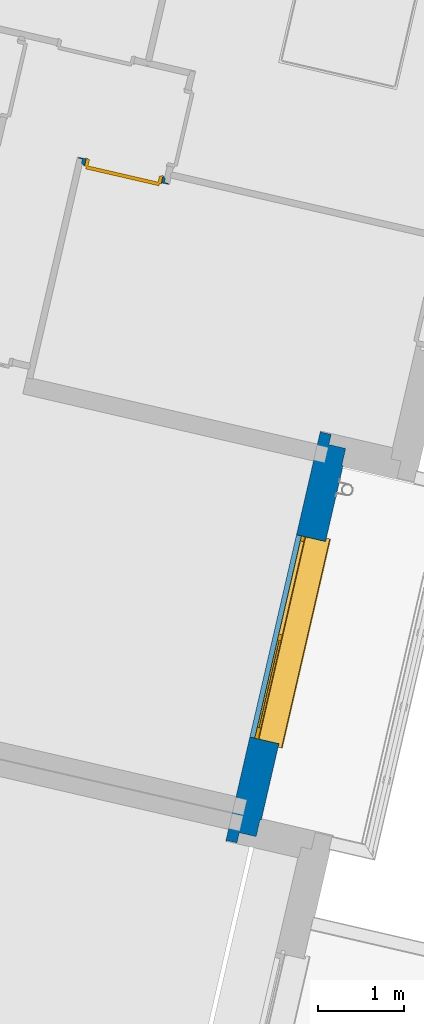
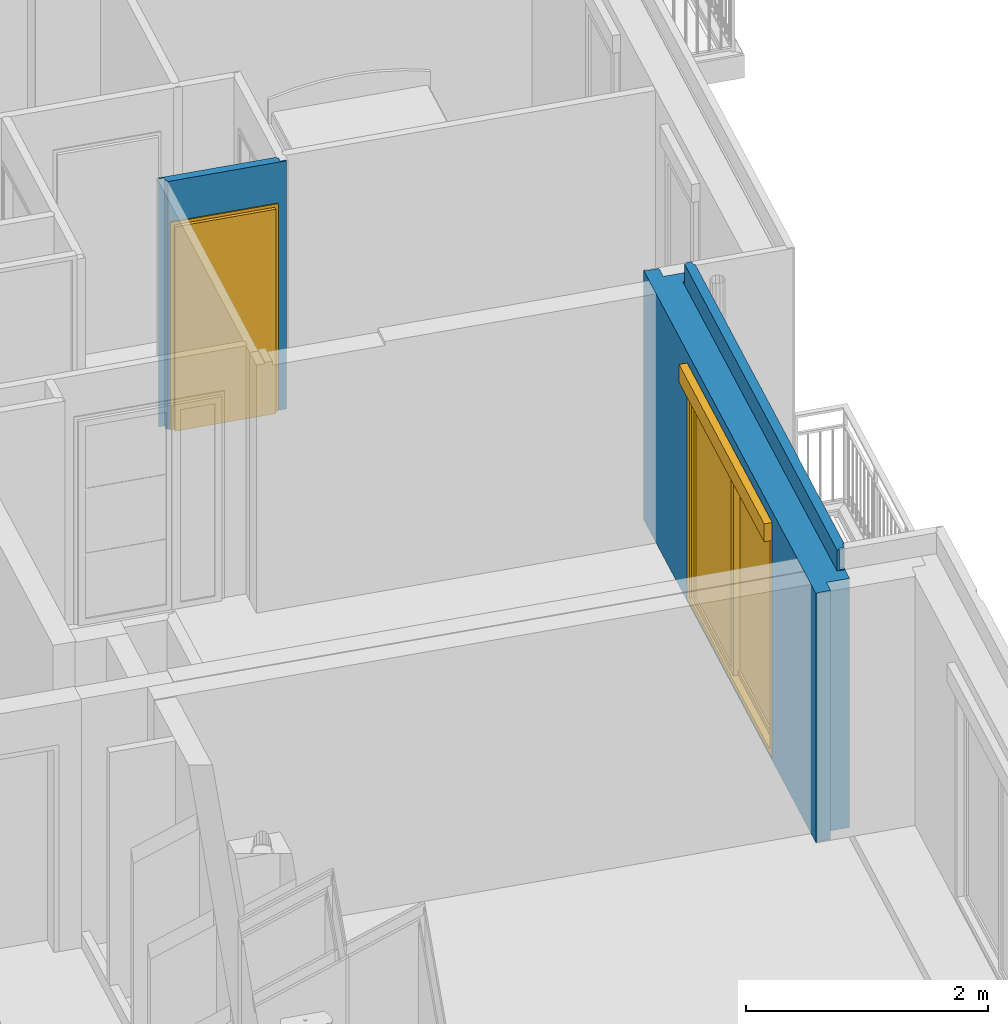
# One storey, part 32 of 90: 2 walls, 1 door, 1 window, 2 openings.
"""IFC2X3 building model written with IfcOpenShell, lengths in metres."""

import ifcopenshell
import ifcopenshell.guid

model = None  # the IFC model being written
_history = None  # IfcOwnerHistory: only IFC2X3 demands one
_inside = {}  # id of a spatial element -> (the spatial element, [elements in it])
_under = {}  # id of a project, library or spatial element -> (it, [spatial elements below it])
_declared = {}  # id of a project -> (the project, [libraries it declares])
_typed = {}  # id of a type object -> (the type object, [elements of that type])
_made_of = {}  # id of a material, layer set ... -> (it, [elements and type objects made of it])


def new_model(schema):
    """Start an empty IFC model of exactly this schema.

    Asked for "IFC4X3", IfcOpenShell would pick the latest addendum, in which some entities
    have other attributes; the version numbers below select the first issue.
    IFC2X3 requires an IfcOwnerHistory on every rooted entity: one is made here for all.
    """
    global model, _history
    if schema == "IFC4X3":
        model = ifcopenshell.file(schema_version=(4, 3, 0, 0))
    else:
        model = ifcopenshell.file(schema=schema)
    _inside.clear()
    _under.clear()
    _declared.clear()
    _typed.clear()
    _made_of.clear()
    _history = None
    if model.schema == "IFC2X3":
        org = make("IfcOrganization", Name="unknown")
        user = make(
            "IfcPersonAndOrganization",
            ThePerson=make("IfcPerson", FamilyName="unknown"),
            TheOrganization=org,
        )
        app = make(
            "IfcApplication",
            ApplicationDeveloper=org,
            Version="unknown",
            ApplicationFullName="unknown",
            ApplicationIdentifier="unknown",
        )
        _history = make(
            "IfcOwnerHistory",
            OwningUser=user,
            OwningApplication=app,
            ChangeAction="ADDED",
            CreationDate=0,
        )
    return model


def make(cls, **values):
    """One entity of the class cls with the attributes given. An attribute that is None is left unset."""
    return model.create_entity(
        cls, **{name: value for name, value in values.items() if value is not None}
    )


def entity(cls, *values):
    """Any entity or typed value of the class cls, its attributes in the order of the schema. None: left unset."""
    e = model.create_entity(cls)
    for i, value in enumerate(values):
        if value is not None:
            e[i] = value
    return e


def rooted(cls, **values):
    """An entity with a GlobalId (a new one), such as an element, a storey or a relation."""
    return make(cls, GlobalId=ifcopenshell.guid.new(), OwnerHistory=_history, **values)


def si_unit(unit_type, name, prefix=None):
    """IfcSIUnit, for example si_unit("LENGTHUNIT", "METRE", prefix="MILLI")."""
    return make("IfcSIUnit", UnitType=unit_type, Prefix=prefix, Name=name)


def converted_unit(unit_type, name, factor, base, dimensions=None, offset=None):
    """IfcConversionBasedUnit, such as the inch: factor (a typed value) times the base unit."""
    return make(
        "IfcConversionBasedUnit"
        if offset is None
        else "IfcConversionBasedUnitWithOffset",
        ConversionOffset=offset,
        Dimensions=None
        if dimensions is None
        else entity("IfcDimensionalExponents", *dimensions),
        UnitType=unit_type,
        Name=name,
        ConversionFactor=make(
            "IfcMeasureWithUnit", ValueComponent=factor, UnitComponent=base
        ),
    )


def derived_unit(unit_type, elements):
    """IfcDerivedUnit: a product of units, each with its exponent."""
    return make(
        "IfcDerivedUnit",
        Elements=[
            make("IfcDerivedUnitElement", Unit=unit, Exponent=power)
            for unit, power in elements
        ],
        UnitType=unit_type,
    )


def money_unit(currency):
    """IfcMonetaryUnit."""
    return make("IfcMonetaryUnit", Currency=currency)


def assignment(units):
    """IfcUnitAssignment: the units of a project."""
    return None if units is None else make("IfcUnitAssignment", Units=units)


def point(xyz):
    """IfcCartesianPoint."""
    return None if xyz is None else make("IfcCartesianPoint", Coordinates=xyz)


def direction(xyz):
    """IfcDirection."""
    return None if xyz is None else make("IfcDirection", DirectionRatios=xyz)


def frame(location, z_axis=None, x_axis=None):
    """IfcAxis2Placement3D, a coordinate frame: its origin and axes. An axis left out is left unset."""
    return make(
        "IfcAxis2Placement3D",
        Location=point(location),
        Axis=direction(z_axis),
        RefDirection=direction(x_axis),
    )


def origin_with_axes():
    """The frame at (0, 0, 0) with the z axis (0, 0, 1) and the x axis (1, 0, 0) written out."""
    return frame((0.0, 0.0, 0.0), z_axis=(0.0, 0.0, 1.0), x_axis=(1.0, 0.0, 0.0))


def place(relative_to, where):
    """IfcLocalPlacement: puts the frame where relative to a parent placement (None: the world)."""
    return make(
        "IfcLocalPlacement", PlacementRelTo=relative_to, RelativePlacement=where
    )


def context(
    kind, dimensions, precision=None, world=None, true_north=None, identifier=None
):
    """IfcGeometricRepresentationContext, for example the 3D "Model" context."""
    return make(
        "IfcGeometricRepresentationContext",
        ContextIdentifier=identifier,
        ContextType=kind,
        CoordinateSpaceDimension=dimensions,
        Precision=precision,
        WorldCoordinateSystem=world,
        TrueNorth=true_north,
    )


def subcontext(parent, identifier, kind, view, scale=None):
    """IfcGeometricRepresentationSubContext, for example "Body" below "Model"."""
    return make(
        "IfcGeometricRepresentationSubContext",
        ContextIdentifier=identifier,
        ContextType=kind,
        ParentContext=parent,
        TargetScale=scale,
        TargetView=view,
    )


def project(units=None, contexts=None):
    """IfcProject with its units and contexts."""
    return rooted(
        "IfcProject",
        Name="project",
        RepresentationContexts=contexts,
        UnitsInContext=assignment(units),
    )


def spatial(cls, under=None, at=None, **own):
    """A site, building, storey or space (cls), placed at a placement, below another one or the project."""
    s = rooted(cls, ObjectPlacement=at, **own)
    if under is not None:
        _under.setdefault(under.id(), (under, []))[1].append(s)
    return s


def faces_of(points, faces, orient=None, outer=None):
    """IfcFace entities. A face is a list of loops; a loop is a list of indices into points, from 0.

    orient and outer hold one flag for each loop. By default every Orientation is true, the
    first loop of a face is its IfcFaceOuterBound and the others are IfcFaceBound.
    """
    made = []
    for i, loops in enumerate(faces):
        bounds = []
        for j, loop in enumerate(loops):
            is_outer = j == 0 if outer is None else outer[i][j]
            bounds.append(
                make(
                    "IfcFaceOuterBound" if is_outer else "IfcFaceBound",
                    Bound=make("IfcPolyLoop", Polygon=[points[k] for k in loop]),
                    Orientation=True if orient is None else orient[i][j],
                )
            )
        made.append(make("IfcFace", Bounds=bounds))
    return made


def open_shell(faces, orient=None, outer=None):
    """The faces of one IfcOpenShell. surface_model builds it on its shared points."""
    return ("IfcOpenShell", faces, orient, outer)


def faceted_brep(points, faces, orient=None, outer=None, voids=None):
    """IfcFacetedBrep: a solid bounded by flat faces; with voids (closed shells), ...WithVoids."""
    shared = [point(p) for p in points]
    hull = make("IfcClosedShell", CfsFaces=faces_of(shared, faces, orient, outer))
    if voids is None:
        return make("IfcFacetedBrep", Outer=hull)
    return make(
        "IfcFacetedBrepWithVoids",
        Outer=hull,
        Voids=[
            make(cls, CfsFaces=faces_of(shared, fs, o, b)) for cls, fs, o, b in voids
        ],
    )


def surface_model(cls, points, shells):
    """IfcFaceBasedSurfaceModel or IfcShellBasedSurfaceModel (cls): surfaces that need not close."""
    shared = [point(p) for p in points]
    made = [make(c, CfsFaces=faces_of(shared, fs, o, b)) for c, fs, o, b in shells]
    if cls == "IfcFaceBasedSurfaceModel":
        return make(cls, FbsmFaces=made)
    return make(cls, SbsmBoundary=made)


def shape(context_of_items, identifier, shape_type, items):
    """IfcShapeRepresentation: the items that make up one representation, for example the "Body"."""
    return make(
        "IfcShapeRepresentation",
        ContextOfItems=context_of_items,
        RepresentationIdentifier=identifier,
        RepresentationType=shape_type,
        Items=items,
    )


def source(mapping_origin, context_of_items, identifier, shape_type, items):
    """IfcRepresentationMap: a shape defined once, which mapped items show again and again."""
    return make(
        "IfcRepresentationMap",
        MappingOrigin=mapping_origin,
        MappedRepresentation=shape(context_of_items, identifier, shape_type, items),
    )


def transform(
    local_origin,
    x_axis=None,
    y_axis=None,
    z_axis=None,
    scale=None,
    scale2=None,
    scale3=None,
    uniform=True,
):
    """IfcCartesianTransformationOperator3D, or its non-uniform kind. x_axis, y_axis, z_axis: its Axis1, 2, 3."""
    if uniform:
        return make(
            "IfcCartesianTransformationOperator3D",
            Axis1=direction(x_axis),
            Axis2=direction(y_axis),
            LocalOrigin=point(local_origin),
            Scale=scale,
            Axis3=direction(z_axis),
        )
    return make(
        "IfcCartesianTransformationOperator3DnonUniform",
        Axis1=direction(x_axis),
        Axis2=direction(y_axis),
        LocalOrigin=point(local_origin),
        Scale=scale,
        Axis3=direction(z_axis),
        Scale2=scale2,
        Scale3=scale3,
    )


def mapped(mapping_source, mapping_target):
    """IfcMappedItem: shows the shape of a source again, moved by a transform."""
    return make(
        "IfcMappedItem", MappingSource=mapping_source, MappingTarget=mapping_target
    )


def material(Name=None, Category=None):
    """IfcMaterial."""
    return make("IfcMaterial", Name=Name, Category=Category)


def material_list(materials):
    """IfcMaterialList."""
    return make("IfcMaterialList", Materials=materials)


def made_of(thing, what):
    """Note that an element or type object is made of a material, layer set ...; save() writes the relation."""
    if what is not None:
        _made_of.setdefault(what.id(), (what, []))[1].append(thing)
    return thing


def type_object(cls, material=None, **own):
    """A type object (cls), such as IfcWallType, which elements share."""
    return made_of(rooted(cls, **own), material)


def element(
    cls,
    number,
    at=None,
    inside=None,
    cuts=None,
    type_object=None,
    material=None,
    context=None,
    identifier="Body",
    shape_type=None,
    held_by="IfcProductDefinitionShape",
    body=None,
    shapes=None,
    **own,
):
    """One element of the class cls, such as IfcWall. Its Tag is "e" and its number.

    at: its placement. inside: the storey or other place that contains it. cuts: it is an
    opening in that element (IfcRelVoidsElement). A single representation is given by context,
    identifier, shape_type and body (its items); several are given by shapes. held_by: the class
    of the entity that holds the representations. save() writes the other relations.
    """
    e = rooted(cls, Tag="e%d" % number, ObjectPlacement=at, **own)
    if body is not None:
        shapes = [shape(context, identifier, shape_type, body)]
    if shapes is not None:
        e.Representation = make(held_by, Representations=shapes)
    if inside is not None:
        _inside.setdefault(inside.id(), (inside, []))[1].append(e)
    if cuts is not None:
        rooted(
            "IfcRelVoidsElement", RelatingBuildingElement=cuts, RelatedOpeningElement=e
        )
    if type_object is not None:
        _typed.setdefault(type_object.id(), (type_object, []))[1].append(e)
    return made_of(e, material)


def fill(opening, filler):
    """IfcRelFillsElement: the door or window that sits in an opening."""
    return rooted(
        "IfcRelFillsElement",
        RelatingOpeningElement=opening,
        RelatedBuildingElement=filler,
    )


def aggregate(whole, parts):
    """IfcRelAggregates: a whole, such as a stair, and the parts it consists of."""
    return rooted("IfcRelAggregates", RelatingObject=whole, RelatedObjects=parts)


def save(model, path):
    """Write the relations noted so far, then the file.

    IfcRelAggregates (storeys below a building ...), IfcRelContainedInSpatialStructure (elements
    in a storey), IfcRelDefinesByType, IfcRelAssociatesMaterial and IfcRelDeclares: one each for
    every whole, place, type object, material and project.
    """
    for whole, parts in _under.values():
        aggregate(whole, parts)
    for where, things in _inside.values():
        rooted(
            "IfcRelContainedInSpatialStructure",
            RelatedElements=things,
            RelatingStructure=where,
        )
    for kind, things in _typed.values():
        rooted("IfcRelDefinesByType", RelatedObjects=things, RelatingType=kind)
    for what, things in _made_of.values():
        rooted("IfcRelAssociatesMaterial", RelatedObjects=things, RelatingMaterial=what)
    for by, libraries in _declared.values():
        rooted("IfcRelDeclares", RelatingContext=by, RelatedDefinitions=libraries)
    model.write(path)


model = new_model("IFC2X3")

# Units and contexts
model_context = context("Model", 3, precision=1e-05, world=origin_with_axes(), true_north=direction((0.0, 1.0)))
body_context = subcontext(model_context, "Body", "Model", "MODEL_VIEW")
ifc_project = project(units=[si_unit("LENGTHUNIT", "METRE"), si_unit("AREAUNIT", "SQUARE_METRE"), si_unit("VOLUMEUNIT", "CUBIC_METRE"), converted_unit("PLANEANGLEUNIT", "DEGREE", entity("IfcPlaneAngleMeasure", 0.0174532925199), si_unit("PLANEANGLEUNIT", "RADIAN"), dimensions=[0, 0, 0, 0, 0, 0, 0]), si_unit("SOLIDANGLEUNIT", "STERADIAN"), money_unit("EUR"), converted_unit("TIMEUNIT", "Year", entity("IfcTimeMeasure", 31556926.0), si_unit("TIMEUNIT", "SECOND"), dimensions=[0, 0, 1, 0, 0, 0, 0]), si_unit("MASSUNIT", "GRAM", prefix="KILO"), si_unit("THERMODYNAMICTEMPERATUREUNIT", "DEGREE_CELSIUS"), si_unit("LUMINOUSINTENSITYUNIT", "LUMEN"), si_unit("ENERGYUNIT", "JOULE", prefix="MEGA"), derived_unit("THERMALCONDUCTANCEUNIT", [(si_unit("POWERUNIT", "WATT"), 1), (si_unit("LENGTHUNIT", "METRE"), -1), (si_unit("THERMODYNAMICTEMPERATUREUNIT", "KELVIN"), -1)]), derived_unit("SPECIFICHEATCAPACITYUNIT", [(si_unit("ENERGYUNIT", "JOULE"), 1), (si_unit("MASSUNIT", "GRAM", prefix="KILO"), -1), (si_unit("THERMODYNAMICTEMPERATUREUNIT", "KELVIN"), -1)]), derived_unit("MASSDENSITYUNIT", [(si_unit("MASSUNIT", "GRAM", prefix="KILO"), 1), (si_unit("VOLUMEUNIT", "CUBIC_METRE"), -1)])], contexts=[model_context])

# Site, building, storey
site_placement = place(None, origin_with_axes())
site = spatial("IfcSite", under=ifc_project, at=site_placement, Name="Site", CompositionType="ELEMENT")
building_placement = place(site_placement, origin_with_axes())
building = spatial("IfcBuilding", under=site, at=building_placement, Name="Bâtiment", CompositionType="ELEMENT")
storey_placement = place(building_placement, frame((0.0, 0.0, 2.72), z_axis=(0.0, 0.0, 1.0), x_axis=(1.0, 0.0, 0.0)))
storey = spatial("IfcBuildingStorey", under=building, at=storey_placement, Name="R+1", CompositionType="ELEMENT", Elevation=2.72)

# Wall, opening, window
ifc_material_1 = material(Name="Finition ext - Crépis")
ifc_material_2 = material(Name="Béton cellulaire")
ifc_material_3 = material(Name="Mortier")
ifc_material_4 = material(Name="Isolation - Polystyrène expansé")
ifc_material_5 = material(Name="Bloc ELITHERM")
ifc_material_6 = material(Name="Isolation - Polystyrène extrudé")
ifc_material_7 = material(Name="Finition int - Plaque de plâtre")
ifc_material_list_1 = material_list([ifc_material_1, ifc_material_2, ifc_material_3, ifc_material_4, ifc_material_5, ifc_material_6, ifc_material_7])
wall_type_1 = type_object("IfcWallType", Name="Mur ALKERN + planelle 21 345 x 2720", PredefinedType="USERDEFINED")
wall_1_placement = place(storey_placement, frame((-1.10089203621, 6.64769459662, 0.0), z_axis=(0.0, 0.0, 1.0), x_axis=(-0.224876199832, -0.974387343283, 0.0)))
wall_1 = element("IfcWall", 1, at=wall_1_placement, inside=storey, type_object=wall_type_1, material=ifc_material_list_1, Name="Mue bloc ALKERN isolé", ObjectType="SOLIDWALL", context=body_context, shape_type="Brep", body=[
    faceted_brep([(0.885499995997, -0.015, 0.02), (0.885499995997, -0.015, 0.0), (-0.0150000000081, -0.015, 0.0), (-0.0150000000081, -0.015, 2.72), (4.19099999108, -0.015, 2.72), (4.19099999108, -0.015, 0.0), (3.285499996, -0.015, 0.0), (3.285499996, -0.015, 0.02), (3.285499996, -0.015, 2.22), (0.885499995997, -0.015, 2.22), (0.885499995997, -0.0299999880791, 0.02), (0.885499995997, -0.0299999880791, 0.0), (0.885499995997, -0.0299999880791, 2.22), (-0.0150000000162, -0.0299999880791, 0.0), (-0.0150000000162, -0.0299999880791, 2.72), (4.19099999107, -0.0299999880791, 2.72), (4.19099999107, -0.0299999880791, 0.0), (3.285499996, -0.0299999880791, 0.0), (3.285499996, -0.0299999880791, 0.02), (3.285499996, -0.0299999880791, 2.22)], [[[0, 1, 2, 3, 4, 5, 6, 7, 8, 9]], [[10, 11, 1, 0, 9, 12]], [[1, 11, 13, 2]], [[3, 2, 13, 14]], [[4, 3, 14, 15]], [[15, 16, 5, 4]], [[17, 6, 5, 16]], [[7, 6, 17, 18, 19, 8]], [[8, 19, 12, 9]], [[11, 10, 12, 19, 18, 17, 16, 15, 14, 13]]]),
    faceted_brep([(4.23899999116, -0.0779999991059, 2.72), (4.23899999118, -0.03, 2.72), (-0.0630000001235, -0.03, 2.72), (-0.0630000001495, -0.0779999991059, 2.72), (4.23899999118, -0.03, 2.51999999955), (4.23899999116, -0.0779999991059, 2.51999999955), (-0.0630000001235, -0.03, 2.51999999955), (-0.0630000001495, -0.0779999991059, 2.51999999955)], [[[0, 1, 2, 3]], [[4, 1, 0, 5]], [[1, 4, 6, 2]], [[3, 2, 6, 7]], [[5, 0, 3, 7]], [[4, 5, 7, 6]]]),
    faceted_brep([(4.25899998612, -0.098, 2.51999998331), (4.25899998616, -0.03, 2.51999998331), (-0.0830000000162, -0.03, 2.51999998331), (-0.083000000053, -0.098, 2.51999998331), (4.25899998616, -0.03, 2.51000000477), (4.25899998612, -0.098, 2.51000000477), (-0.0830000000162, -0.03, 2.51000000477), (-0.083000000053, -0.098, 2.51000000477)], [[[0, 1, 2, 3]], [[4, 1, 0, 5]], [[1, 4, 6, 2]], [[2, 6, 7, 3]], [[5, 0, 3, 7]], [[4, 5, 7, 6]]]),
    faceted_brep([(-0.048000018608, -0.0780000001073, 2.51999998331), (-0.0480000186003, -0.0780000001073, 2.72), (4.25899998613, -0.0780000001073, 2.72), (4.25899998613, -0.0780000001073, 2.51999998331), (-0.0480000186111, -0.0980000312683, 2.72), (-0.0480000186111, -0.098000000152, 2.51999998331), (4.25899998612, -0.098000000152, 2.72), (4.25899998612, -0.098000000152, 2.51999998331)], [[[0, 1, 2, 3]], [[4, 1, 0, 5]], [[1, 4, 6, 2]], [[7, 3, 2, 6]], [[5, 0, 3, 7]], [[4, 5, 7, 6]]]),
    faceted_brep([(0.885499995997, -0.03, 0.02), (0.885499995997, -0.03, 0.0), (-0.215000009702, -0.03, 0.0), (-0.215000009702, -0.03, 2.51), (4.39100000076, -0.03, 2.51), (4.39100000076, -0.03, 0.0), (3.285499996, -0.03, 0.0), (3.285499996, -0.03, 0.02), (3.285499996, -0.03, 2.22), (0.885499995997, -0.03, 2.22), (0.885499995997, -0.229999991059, 0.02), (0.885499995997, -0.229999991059, 0.0), (0.885499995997, -0.229999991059, 2.22), (-0.21500000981, -0.229999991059, 0.0), (-0.21500000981, -0.229999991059, 2.51), (-0.215000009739, -0.0979999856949, 2.51), (4.39100000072, -0.0979999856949, 2.51), (4.39100000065, -0.229999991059, 0.0), (4.39100000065, -0.229999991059, 2.51), (3.285499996, -0.229999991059, 0.0), (3.285499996, -0.229999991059, 0.02), (3.285499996, -0.229999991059, 2.22)], [[[0, 1, 2, 3, 4, 5, 6, 7, 8, 9]], [[10, 11, 1, 0, 9, 12]], [[1, 11, 13, 2]], [[14, 15, 3, 2, 13]], [[3, 15, 16, 4]], [[17, 5, 4, 16, 18]], [[19, 6, 5, 17]], [[7, 6, 19, 20, 21, 8]], [[8, 21, 12, 9]], [[11, 10, 12, 21, 20, 19, 17, 18, 14, 13]], [[15, 14, 18, 16]]]),
    faceted_brep([(0.885499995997, -0.301, 0.02), (0.885499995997, -0.301, 0.0), (0.885499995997, -0.230000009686, 0.0), (0.885499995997, -0.230000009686, 0.02), (0.885499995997, -0.23, 2.22), (0.885499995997, -0.23, 2.4), (0.885499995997, -0.350000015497, 2.4), (0.885499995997, -0.350000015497, 2.22), (0.885499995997, -0.350000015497, 0.02), (3.285499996, -0.301, 0.02), (3.285499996, -0.301, 0.0), (3.285499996, -0.230000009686, 0.0), (4.51100000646, -0.230000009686, 0.0), (4.5110000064, -0.350000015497, 0.0), (-0.335000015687, -0.350000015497, 0.0), (-0.335000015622, -0.230000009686, 0.0), (3.285499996, -0.230000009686, 0.02), (3.285499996, -0.23, 2.22), (3.285499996, -0.23, 2.4), (-0.335000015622, -0.230000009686, 2.51), (4.51100000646, -0.230000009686, 2.51), (3.285499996, -0.350000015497, 2.4), (4.5110000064, -0.350000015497, 2.51), (-0.335000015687, -0.350000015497, 2.51), (3.285499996, -0.350000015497, 2.22), (3.285499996, -0.350000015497, 0.02)], [[[0, 1, 2, 3, 4, 5, 6, 7, 8]], [[0, 9, 10, 1]], [[10, 11, 12, 13, 14, 15, 2, 1]], [[11, 16, 17, 18, 5, 4, 3, 2, 15, 19, 20, 12]], [[18, 21, 6, 5]], [[14, 13, 22, 23], [8, 7, 6, 21, 24, 25]], [[9, 0, 8, 25]], [[16, 11, 10, 9, 25, 24, 21, 18, 17]], [[13, 12, 20, 22]], [[14, 23, 19, 15]], [[23, 22, 20, 19]]]),
    faceted_brep([(4.52099996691, -0.350000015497, 0.0), (-0.344999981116, -0.350000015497, 0.0), (-0.344999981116, -0.350000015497, 2.51000000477), (4.52099996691, -0.350000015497, 2.51000000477), (3.285499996, -0.350000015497, 2.22), (3.285499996, -0.350000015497, 2.4), (0.885499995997, -0.350000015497, 2.4), (0.885499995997, -0.350000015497, 2.22), (0.885499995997, -0.350000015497, 0.02), (3.285499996, -0.350000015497, 0.02), (4.5209999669, -0.35999998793, 0.0), (-0.344999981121, -0.35999998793, 0.0), (-0.344999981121, -0.35999998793, 2.51000000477), (4.5209999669, -0.35999998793, 2.51000000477), (3.285499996, -0.35999998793, 2.22), (3.285499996, -0.35999998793, 2.4), (0.885499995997, -0.35999998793, 2.4), (0.885499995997, -0.35999998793, 2.22), (0.885499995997, -0.35999998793, 0.02), (3.285499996, -0.35999998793, 0.02)], [[[0, 1, 2, 3], [4, 5, 6, 7, 8, 9]], [[10, 11, 1, 0]], [[2, 1, 11, 12]], [[3, 2, 12, 13]], [[3, 13, 10, 0]], [[5, 4, 14, 15]], [[6, 5, 15, 16]], [[7, 6, 16, 17]], [[7, 17, 18, 8]], [[8, 18, 19, 9]], [[14, 4, 9, 19]], [[13, 12, 11, 10], [15, 14, 19, 18, 17, 16]]]),
])
opening_1_placement = place(wall_1_placement, frame((2.085499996, 0.0, 0.02), z_axis=(0.0, 0.0, 1.0), x_axis=(1.0, 0.0, 0.0)))
opening_1 = element("IfcOpeningElement", 2, at=opening_1_placement, cuts=wall_1, Name="MEN 35", context=body_context, shape_type="Brep", body=[
    faceted_brep([(1.2, -0.84999998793, 0.0), (-1.2, -0.84999998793, 0.0), (-1.2, -0.26, 0.0), (1.2, -0.26, 0.0), (1.2, -0.84999998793, 2.2), (-1.2, -0.84999998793, 2.2), (-1.2, -0.26, 2.2), (1.2, -0.26, 2.2)], [[[0, 1, 2, 3]], [[0, 4, 5, 1]], [[1, 5, 6, 2]], [[3, 2, 6, 7]], [[4, 0, 3, 7]], [[5, 4, 7, 6]]]),
    faceted_brep([(1.2, 0.32999998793, 0.0), (1.2, 0.32999998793, 2.2), (1.2, -0.26, 2.2), (1.2, -0.26, 0.0), (-1.2, 0.32999998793, 0.0), (-1.2, 0.32999998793, 2.2), (-1.2, -0.26, 2.2), (-1.2, -0.26, 0.0)], [[[0, 1, 2, 3]], [[0, 4, 5, 1]], [[1, 5, 6, 2]], [[3, 2, 6, 7]], [[4, 0, 3, 7]], [[5, 4, 7, 6]]]),
    faceted_brep([(1.2, 0.32999998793, 0.0), (1.2, 0.32999998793, 2.2), (1.2, -0.26, 2.2), (1.2, -0.26, 0.0), (-1.2, 0.32999998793, 0.0), (-1.2, 0.32999998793, 2.2), (-1.2, -0.26, 2.2), (-1.2, -0.26, 0.0)], [[[0, 1, 2, 3]], [[0, 4, 5, 1]], [[1, 5, 6, 2]], [[3, 2, 6, 7]], [[4, 0, 3, 7]], [[5, 4, 7, 6]]]),
    faceted_brep([(1.2, -0.81999998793, 2.2), (-1.2, -0.81999998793, 2.2), (-1.2, -0.23, 2.2), (1.2, -0.23, 2.2), (1.2, -0.81999998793, 2.38), (-1.2, -0.81999998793, 2.38), (-1.2, -0.23, 2.38), (1.2, -0.23, 2.38)], [[[0, 1, 2, 3]], [[0, 4, 5, 1]], [[1, 5, 6, 2]], [[3, 2, 6, 7]], [[4, 0, 3, 7]], [[5, 4, 7, 6]]]),
    faceted_brep([(1.2, 0.28899998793, 0.0), (-1.2, 0.28899998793, 0.0), (-1.2, -0.301, 0.0), (1.2, -0.301, 0.0), (1.2, 0.28899998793, -0.06), (-1.2, 0.28899998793, -0.06), (-1.2, -0.301, -0.06), (1.2, -0.301, -0.06)], [[[0, 1, 2, 3]], [[0, 4, 5, 1]], [[1, 5, 6, 2]], [[3, 2, 6, 7]], [[4, 0, 3, 7]], [[5, 4, 7, 6]]]),
])
window_style = type_object("IfcWindowStyle", Name="Baie générique 2017 v2", ConstructionType="NOTDEFINED", OperationType="NOTDEFINED", ParameterTakesPrecedence=False, Sizeable=False)
shared_shape_1 = source(origin_with_axes(), body_context, "Body", "SurfaceModel", [
    faceted_brep([(-1.2, 0.1, 0.0), (1.2, 0.1, 0.0), (1.2, 0.0, 0.0), (-1.2, 0.0, 0.0), (-1.2, 0.1, 2.2), (1.2, 0.1, 2.2), (-1.14, 0.1, 0.05), (1.14, 0.1, 0.05), (1.14, 0.1, 2.15), (-1.14, 0.1, 2.15), (1.2, 0.0, 2.2), (-1.2, 0.0, 2.2), (-1.14, 0.0, 0.05), (-1.14, 0.0, 2.15), (1.14, 0.0, 2.15), (1.14, 0.0, 0.05)], [[[0, 1, 2, 3]], [[0, 4, 5, 1], [6, 7, 8, 9]], [[1, 5, 10, 2]], [[3, 2, 10, 11], [12, 13, 14, 15]], [[4, 0, 3, 11]], [[5, 4, 11, 10]], [[7, 6, 12, 15]], [[8, 7, 15, 14]], [[9, 8, 14, 13]], [[6, 9, 13, 12]]]),
    faceted_brep([(-1.14, 0.04, 0.05), (-1.14, 0.04, 2.15), (0.035, 0.04, 2.15), (0.035, 0.04, 0.05), (-0.035, 0.04, 2.08), (-1.07, 0.04, 2.08), (-1.07, 0.04, 0.1), (-0.035, 0.04, 0.1), (-1.14, 0.0, 2.15), (-1.14, 0.02, 2.15), (-1.14, 0.02, 0.05), (-1.14, 0.0, 0.05), (0.035, 0.0, 2.15), (0.035, 0.02, 2.15), (0.035, 0.0, 0.05), (0.035, 0.02, 0.05), (-0.035, 0.0, 2.08), (-1.07, 0.0, 2.08), (-1.07, 0.0, 0.1), (-0.035, 0.0, 0.1)], [[[0, 1, 2, 3], [4, 5, 6, 7]], [[8, 9, 1, 0, 10, 11]], [[12, 13, 2, 1, 9, 8]], [[13, 12, 14, 15, 3, 2]], [[15, 14, 11, 10, 0, 3]], [[5, 4, 16, 17]], [[18, 6, 5, 17]], [[19, 7, 6, 18]], [[4, 7, 19, 16]], [[12, 8, 11, 14], [19, 18, 17, 16]]]),
    surface_model("IfcShellBasedSurfaceModel", [(-1.14, 0.04, 0.05), (-1.14, 0.04, 2.15), (0.035, 0.04, 2.15), (0.035, 0.04, 0.05), (-1.07, 0.04, 0.1), (-0.035, 0.04, 0.1), (-0.035, 0.04, 2.08), (-1.07, 0.04, 2.08)], [open_shell([[[0, 1, 2, 3], [4, 5, 6, 7]]])]),
    surface_model("IfcShellBasedSurfaceModel", [(-1.14, 0.0, 0.05), (-1.14, 0.0, 2.15), (0.035, 0.0, 2.15), (0.035, 0.0, 0.05), (-1.07, 0.0, 0.1), (-0.035, 0.0, 0.1), (-0.035, 0.0, 2.08), (-1.07, 0.0, 2.08)], [open_shell([[[0, 1, 2, 3], [4, 5, 6, 7]]])]),
    faceted_brep([(-1.07, 0.0225, 0.1), (-0.035, 0.0225, 0.1), (-0.035, 0.0175, 0.1), (-1.07, 0.0175, 0.1), (-1.07, 0.0225, 2.08), (-0.035, 0.0225, 2.08), (-0.035, 0.0175, 2.08), (-1.07, 0.0175, 2.08)], [[[0, 1, 2, 3]], [[0, 4, 5, 1]], [[1, 5, 6, 2]], [[3, 2, 6, 7]], [[4, 0, 3, 7]], [[5, 4, 7, 6]]]),
    faceted_brep([(-0.035, 0.08, 0.05), (-0.035, 0.08, 2.15), (1.14, 0.08, 2.15), (1.14, 0.08, 0.05), (1.07, 0.08, 2.08), (0.035, 0.08, 2.08), (0.035, 0.08, 0.1), (1.07, 0.08, 0.1), (-0.035, 0.04, 2.15), (-0.035, 0.06, 2.15), (-0.035, 0.06, 0.05), (-0.035, 0.04, 0.05), (1.14, 0.04, 2.15), (1.14, 0.06, 2.15), (1.14, 0.04, 0.05), (1.14, 0.06, 0.05), (1.07, 0.04, 2.08), (0.035, 0.04, 2.08), (0.035, 0.04, 0.1), (1.07, 0.04, 0.1)], [[[0, 1, 2, 3], [4, 5, 6, 7]], [[8, 9, 1, 0, 10, 11]], [[12, 13, 2, 1, 9, 8]], [[13, 12, 14, 15, 3, 2]], [[15, 14, 11, 10, 0, 3]], [[5, 4, 16, 17]], [[18, 6, 5, 17]], [[19, 7, 6, 18]], [[4, 7, 19, 16]], [[12, 8, 11, 14], [19, 18, 17, 16]]]),
    surface_model("IfcShellBasedSurfaceModel", [(-0.035, 0.08, 0.05), (-0.035, 0.08, 2.15), (1.14, 0.08, 2.15), (1.14, 0.08, 0.05), (0.035, 0.08, 0.1), (1.07, 0.08, 0.1), (1.07, 0.08, 2.08), (0.035, 0.08, 2.08)], [open_shell([[[0, 1, 2, 3], [4, 5, 6, 7]]])]),
    surface_model("IfcShellBasedSurfaceModel", [(-0.035, 0.04, 0.05), (-0.035, 0.04, 2.15), (1.14, 0.04, 2.15), (1.14, 0.04, 0.05), (0.035, 0.04, 0.1), (1.07, 0.04, 0.1), (1.07, 0.04, 2.08), (0.035, 0.04, 2.08)], [open_shell([[[0, 1, 2, 3], [4, 5, 6, 7]]])]),
    faceted_brep([(0.035, 0.0625, 0.1), (1.07, 0.0625, 0.1), (1.07, 0.0575, 0.1), (0.035, 0.0575, 0.1), (0.035, 0.0625, 2.08), (1.07, 0.0625, 2.08), (1.07, 0.0575, 2.08), (0.035, 0.0575, 2.08)], [[[0, 1, 2, 3]], [[0, 4, 5, 1]], [[1, 5, 6, 2]], [[3, 2, 6, 7]], [[4, 0, 3, 7]], [[5, 4, 7, 6]]]),
    faceted_brep([(-1.2, -0.03, 0.0), (-1.175, -0.03, 0.0), (-1.175, -0.03, 2.2), (-1.2, -0.03, 2.2), (-1.2, -0.002, 0.0), (-1.175, -0.002, 0.0), (-1.175, -0.004, 0.0), (-1.198, -0.004, 0.0), (-1.198, -0.028, 0.0), (-1.175, -0.028, 0.0), (-1.175, -0.028, 2.2), (-1.198, -0.028, 2.2), (-1.198, -0.004, 2.2), (-1.175, -0.004, 2.2), (-1.175, -0.002, 2.2), (-1.2, -0.002, 2.2)], [[[0, 1, 2, 3]], [[0, 4, 5, 6, 7, 8, 9, 1]], [[1, 9, 10, 2]], [[3, 2, 10, 11, 12, 13, 14, 15]], [[4, 0, 3, 15]], [[5, 4, 15, 14]], [[6, 5, 14, 13]], [[7, 6, 13, 12]], [[8, 7, 12, 11]], [[9, 8, 11, 10]]]),
    faceted_brep([(1.2, -0.03, 0.0), (1.2, -0.03, 2.2), (1.175, -0.03, 2.2), (1.175, -0.03, 0.0), (1.2, -0.002, 0.0), (1.2, -0.002, 2.2), (1.175, -0.002, 2.2), (1.175, -0.004, 2.2), (1.198, -0.004, 2.2), (1.198, -0.028, 2.2), (1.175, -0.028, 2.2), (1.175, -0.028, 0.0), (1.198, -0.028, 0.0), (1.198, -0.004, 0.0), (1.175, -0.004, 0.0), (1.175, -0.002, 0.0)], [[[0, 1, 2, 3]], [[4, 5, 1, 0]], [[1, 5, 6, 7, 8, 9, 10, 2]], [[3, 2, 10, 11]], [[0, 3, 11, 12, 13, 14, 15, 4]], [[15, 6, 5, 4]], [[14, 7, 6, 15]], [[13, 8, 7, 14]], [[12, 9, 8, 13]], [[11, 10, 9, 12]]]),
    faceted_brep([(1.198, -0.028, 2.2), (-1.198, -0.028, 2.2), (-1.198, -0.028, 2.378), (1.198, -0.028, 2.378), (1.198, -0.03, 2.2), (-1.198, -0.03, 2.2), (-1.198, -0.03, 2.38), (-1.198, 0.17, 2.38), (-1.198, 0.17, 2.2), (-1.198, 0.168, 2.2), (-1.198, 0.168, 2.378), (1.198, 0.168, 2.378), (1.198, 0.168, 2.2), (1.198, 0.17, 2.2), (1.198, 0.17, 2.38), (1.198, -0.03, 2.38)], [[[0, 1, 2, 3]], [[4, 5, 1, 0]], [[1, 5, 6, 7, 8, 9, 10, 2]], [[3, 2, 10, 11]], [[0, 3, 11, 12, 13, 14, 15, 4]], [[15, 6, 5, 4]], [[14, 7, 6, 15]], [[13, 8, 7, 14]], [[12, 9, 8, 13]], [[11, 10, 9, 12]]]),
    faceted_brep([(1.198, 0.0724697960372, 2.27436337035), (1.198, 0.08, 2.29), (1.198, 0.0724697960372, 2.30563662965), (1.198, 0.0555495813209, 2.30949855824), (1.198, 0.041980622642, 2.29867767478), (1.198, 0.041980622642, 2.28132232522), (1.198, 0.0555495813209, 2.27050144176), (-1.198, 0.0724697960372, 2.27436337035), (-1.198, 0.08, 2.29), (-1.198, 0.0724697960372, 2.30563662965), (-1.198, 0.0555495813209, 2.30949855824), (-1.198, 0.041980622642, 2.29867767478), (-1.198, 0.041980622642, 2.28132232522), (-1.198, 0.0555495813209, 2.27050144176)], [[[0, 1, 2, 3, 4, 5, 6]], [[0, 7, 8, 1]], [[1, 8, 9, 2]], [[2, 9, 10, 3]], [[3, 10, 11, 4]], [[4, 11, 12, 5]], [[5, 12, 13, 6]], [[6, 13, 7, 0]], [[7, 13, 12, 11, 10, 9, 8]]]),
    faceted_brep([(1.188, 0.130275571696, 2.25615706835), (1.188, 0.138, 2.29), (1.188, 0.130275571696, 2.32384293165), (1.188, 0.108632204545, 2.35098285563), (1.188, 0.0773566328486, 2.36604437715), (1.188, 0.0426433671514, 2.36604437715), (1.188, 0.011367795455, 2.35098285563), (1.188, -0.0102755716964, 2.32384293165), (1.188, -0.018, 2.29), (1.188, -0.0102755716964, 2.25615706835), (1.188, 0.011367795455, 2.22901714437), (1.188, 0.0426433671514, 2.21395562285), (1.188, 0.0773566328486, 2.21395562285), (1.188, 0.108632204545, 2.22901714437), (-1.188, 0.130275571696, 2.25615706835), (-1.188, 0.138, 2.29), (-1.188, 0.130275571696, 2.32384293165), (-1.188, 0.108632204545, 2.35098285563), (-1.188, 0.0773566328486, 2.36604437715), (-1.188, 0.0426433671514, 2.36604437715), (-1.188, 0.011367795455, 2.35098285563), (-1.188, -0.0102755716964, 2.32384293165), (-1.188, -0.018, 2.29), (-1.188, -0.0102755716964, 2.25615706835), (-1.188, 0.011367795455, 2.22901714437), (-1.188, 0.0426433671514, 2.21395562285), (-1.188, 0.0773566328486, 2.21395562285), (-1.188, 0.108632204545, 2.22901714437)], [[[0, 1, 2, 3, 4, 5, 6, 7, 8, 9, 10, 11, 12, 13]], [[0, 14, 15, 1]], [[1, 15, 16, 2]], [[2, 16, 17, 3]], [[3, 17, 18, 4]], [[4, 18, 19, 5]], [[5, 19, 20, 6]], [[6, 20, 21, 7]], [[7, 21, 22, 8]], [[8, 22, 23, 9]], [[9, 23, 24, 10]], [[10, 24, 25, 11]], [[11, 25, 26, 12]], [[12, 26, 27, 13]], [[13, 27, 14, 0]], [[14, 27, 26, 25, 24, 23, 22, 21, 20, 19, 18, 17, 16, 15]]]),
    faceted_brep([(1.2, 0.17, 2.2), (1.198, 0.17, 2.2), (1.198, 0.17, 2.38), (1.2, 0.17, 2.38), (1.2, -0.03, 2.2), (1.198, -0.03, 2.2), (1.198, -0.03, 2.38), (1.2, -0.03, 2.38)], [[[0, 1, 2, 3]], [[4, 5, 1, 0]], [[1, 5, 6, 2]], [[3, 2, 6, 7]], [[0, 3, 7, 4]], [[7, 6, 5, 4]]]),
    faceted_brep([(-1.198, 0.17, 2.2), (-1.2, 0.17, 2.2), (-1.2, 0.17, 2.38), (-1.198, 0.17, 2.38), (-1.198, -0.03, 2.2), (-1.2, -0.03, 2.2), (-1.2, -0.03, 2.38), (-1.198, -0.03, 2.38)], [[[0, 1, 2, 3]], [[4, 5, 1, 0]], [[1, 5, 6, 2]], [[3, 2, 6, 7]], [[0, 3, 7, 4]], [[7, 6, 5, 4]]]),
    faceted_brep([(1.198, -0.004, 2.2), (-1.198, -0.004, 2.2), (-1.198, 0.168, 2.2), (1.198, 0.168, 2.2), (1.198, -0.004, 2.202), (-1.198, -0.004, 2.202), (-1.198, 0.168, 2.202), (1.198, 0.168, 2.202)], [[[0, 1, 2, 3]], [[4, 5, 1, 0]], [[1, 5, 6, 2]], [[3, 2, 6, 7]], [[0, 3, 7, 4]], [[7, 6, 5, 4]]]),
    faceted_brep([(-1.188, -0.006, 2.2), (-1.188, -0.006, 2.29), (1.188, -0.006, 2.29), (1.188, -0.006, 2.2), (-1.188, -0.026, 2.2), (-1.188, -0.026, 2.29), (1.188, -0.026, 2.29), (1.188, -0.026, 2.2)], [[[0, 1, 2, 3]], [[1, 0, 4, 5]], [[2, 1, 5, 6]], [[3, 2, 6, 7]], [[4, 0, 3, 7]], [[5, 4, 7, 6]]]),
    faceted_brep([(1.2, -0.00167949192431, -0.01), (1.2, 0.0, -0.00373205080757), (1.24, 0.0, -0.00373205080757), (1.24, 0.001, 0.0), (-1.24, 0.001, 0.0), (-1.24, 0.0, -0.00373205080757), (-1.2, 0.0, -0.00373205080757), (-1.2, -0.00167949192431, -0.01), (1.2, -0.009, -0.0173205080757), (1.2, -0.019, -0.02), (1.2, -0.245, -0.02), (1.2, -0.245, -0.06), (1.2, 0.0, -0.06), (1.24, 0.0, -0.06), (1.24, 0.041, -0.06), (1.24, 0.041, 0.0), (-1.24, 0.041, 0.0), (-1.24, 0.041, -0.06), (-1.24, 0.0, -0.06), (-1.2, 0.0, -0.06), (-1.2, -0.245, -0.02), (-1.2, -0.019, -0.02), (-1.2, -0.009, -0.0173205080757), (-1.2, -0.245, -0.06), (-1.24, -0.245, -0.02), (-1.24, -0.285, -0.02), (1.24, -0.285, -0.02), (1.24, -0.245, -0.02), (1.24, -0.245, -0.06), (1.24, -0.275, -0.06), (-1.24, -0.275, -0.06), (-1.24, -0.245, -0.06), (-1.24, -0.295, -0.03), (-1.24, -0.292071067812, -0.0229289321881), (-1.24, -0.275, -0.05), (-1.24, -0.285, -0.05), (-1.24, -0.285, -0.06), (-1.24, -0.295, -0.06), (1.24, -0.292071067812, -0.0229289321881), (1.24, -0.295, -0.03), (1.24, -0.295, -0.06), (1.24, -0.285, -0.06), (1.24, -0.285, -0.05), (1.24, -0.275, -0.05)], [[[0, 1, 2, 3, 4, 5, 6, 7]], [[1, 0, 8, 9, 10, 11, 12]], [[13, 2, 1, 12]], [[2, 13, 14, 15, 3]], [[16, 4, 3, 15]], [[4, 16, 17, 18, 5]], [[5, 18, 19, 6]], [[20, 21, 22, 7, 6, 19, 23]], [[8, 0, 7, 22]], [[9, 8, 22, 21]], [[10, 9, 21, 20, 24, 25, 26, 27]], [[10, 27, 28, 11]], [[11, 28, 29, 30, 31, 23, 19, 18, 17, 14, 13, 12]], [[17, 16, 15, 14]], [[20, 23, 31, 24]], [[32, 33, 25, 24, 31, 30, 34, 35, 36, 37]], [[25, 33, 38, 26]], [[28, 27, 26, 38, 39, 40, 41, 42, 43, 29]], [[34, 30, 29, 43]], [[33, 32, 39, 38]], [[35, 34, 43, 42]], [[36, 35, 42, 41]], [[37, 36, 41, 40]], [[32, 37, 40, 39]]]),
])
window_placement = place(opening_1_placement, frame((1.2, 0.0, 0.0), z_axis=(0.0, 0.0, 1.0), x_axis=(-1.0, 0.0, 0.0)))
window = element("IfcWindow", 3, at=window_placement, inside=storey, type_object=window_style, Name="MEN 35", ObjectType="WINDOW", OverallHeight=2.2, OverallWidth=2.4, context=body_context, shape_type="MappedRepresentation", body=[
    mapped(shared_shape_1, transform((1.2, 0.26, 0.0))),
])
fill(opening_1, window)

# Wall, opening, door
ifc_material_8 = material(Name="Isolation - Laine de roche")
ifc_material_list_2 = material_list([ifc_material_7, ifc_material_8, ifc_material_7])
wall_type_2 = type_object("IfcWallType", Name="3 - Cloison 72mm Placostil 74", PredefinedType="USERDEFINED")
wall_2_placement = place(storey_placement, frame((-4.1279602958, 10.1458608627, 0.0), z_axis=(0.0, 0.0, 1.0), x_axis=(0.974387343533, -0.224876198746, 0.0)))
wall_2 = element("IfcWall", 4, at=wall_2_placement, inside=storey, type_object=wall_type_2, material=ifc_material_list_2, Name="Cloison Placostil 72/48", ObjectType="PARTITIONING", context=body_context, shape_type="Brep", body=[
    faceted_brep([(0.0292401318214, 0.074, 2.08), (0.0292401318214, 0.074, 0.0), (-0.060999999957, 0.074, 0.0), (-0.060999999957, 0.074, 2.5), (0.960615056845, 0.074, 2.5), (0.960615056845, 0.074, 0.0), (0.939240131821, 0.074, 0.0), (0.939240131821, 0.074, 2.08), (0.0292401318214, 0.061, 2.08), (0.0292401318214, 0.061, 0.0), (-0.0609999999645, 0.061, 0.0), (-0.0609999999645, 0.061, 2.5), (0.960615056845, 0.061, 2.5), (0.960615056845, 0.061, 0.0), (0.939240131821, 0.061, 0.0), (0.939240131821, 0.061, 2.08)], [[[0, 1, 2, 3, 4, 5, 6, 7]], [[1, 0, 8, 9]], [[1, 9, 10, 2]], [[2, 10, 11, 3]], [[4, 3, 11, 12]], [[5, 4, 12, 13]], [[14, 6, 5, 13]], [[7, 6, 14, 15]], [[0, 7, 15, 8]], [[15, 14, 13, 12, 11, 10, 9, 8]]]),
    faceted_brep([(0.0292401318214, 0.061, 2.08), (0.0292401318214, 0.061, 0.0), (-0.0129999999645, 0.061, 0.0), (-0.0129999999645, 0.061, 2.5), (0.973615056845, 0.061, 2.5), (0.973615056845, 0.061, 0.0), (0.939240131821, 0.061, 0.0), (0.939240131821, 0.061, 2.08), (0.0292401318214, 0.013, 2.08), (0.0292401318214, 0.013, 0.0), (-0.0129999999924, 0.013, 0.0), (-0.0129999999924, 0.013, 2.5), (0.973615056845, 0.013, 2.5), (0.973615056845, 0.013, 0.0), (0.939240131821, 0.013, 0.0), (0.939240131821, 0.013, 2.08)], [[[0, 1, 2, 3, 4, 5, 6, 7]], [[1, 0, 8, 9]], [[1, 9, 10, 2]], [[2, 10, 11, 3]], [[4, 3, 11, 12]], [[5, 4, 12, 13]], [[14, 6, 5, 13]], [[7, 6, 14, 15]], [[0, 7, 15, 8]], [[15, 14, 13, 12, 11, 10, 9, 8]]]),
    faceted_brep([(0.0292401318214, 0.013, 2.08), (0.0292401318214, 0.013, 0.0), (0.0, 0.013, 0.0), (0.0, 0.013, 2.5), (1.02161505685, 0.013, 2.5), (1.02161505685, 0.013, 0.0), (0.939240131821, 0.013, 0.0), (0.939240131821, 0.013, 2.08), (0.0292401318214, 0.0, 2.08), (0.0292401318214, 0.0, 0.0), (0.0, 0.0, 0.0), (0.0, 0.0, 2.5), (1.02161505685, 0.0, 2.5), (1.02161505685, 0.0, 0.0), (0.939240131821, 0.0, 0.0), (0.939240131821, 0.0, 2.08)], [[[0, 1, 2, 3, 4, 5, 6, 7]], [[1, 0, 8, 9]], [[1, 9, 10, 2]], [[2, 10, 11, 3]], [[4, 3, 11, 12]], [[5, 4, 12, 13]], [[14, 6, 5, 13]], [[7, 6, 14, 15]], [[0, 7, 15, 8]], [[15, 14, 13, 12, 11, 10, 9, 8]]]),
])
opening_2_placement = place(wall_2_placement, frame((0.484240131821, 0.0, 0.0), z_axis=(0.0, 0.0, 1.0), x_axis=(1.0, 0.0, 0.0)))
opening_2 = element("IfcOpeningElement", 5, at=opening_2_placement, cuts=wall_2, Name="Porte 83x204 bois alvéolaire", context=body_context, shape_type="Brep", body=[
    faceted_brep([(-0.455, 0.074, 0.0), (0.455, 0.074, 0.0), (0.455, -0.074, 0.0), (-0.455, -0.074, 0.0), (-0.455, 0.074, 2.08), (0.455, 0.074, 2.08), (0.455, -0.074, 2.08), (-0.455, -0.074, 2.08)], [[[0, 1, 2, 3]], [[0, 4, 5, 1]], [[1, 5, 6, 2]], [[3, 2, 6, 7]], [[4, 0, 3, 7]], [[5, 4, 7, 6]]]),
])
door_style = type_object("IfcDoorStyle", Name="Porte int générique 2019", ConstructionType="NOTDEFINED", OperationType="SINGLE_SWING_RIGHT", ParameterTakesPrecedence=False, Sizeable=False)
shared_shape_2 = source(origin_with_axes(), body_context, "Body", "Brep", [
    faceted_brep([(0.455, -0.006, 0.0), (0.415, -0.006, 0.0), (0.415, -0.006, 2.04), (-0.415, -0.006, 2.04), (-0.415, -0.006, 0.0), (-0.455, -0.006, 0.0), (-0.455, -0.006, 2.08), (0.455, -0.006, 2.08), (0.455, -0.08, 0.0), (0.415, -0.08, 0.0), (0.415, -0.08, 2.04), (-0.415, -0.08, 2.04), (-0.415, -0.08, 0.0), (-0.455, -0.08, 0.0), (-0.455, -0.08, 2.08), (0.455, -0.08, 2.08)], [[[0, 1, 2, 3, 4, 5, 6, 7]], [[0, 8, 9, 1]], [[1, 9, 10, 2]], [[2, 10, 11, 3]], [[3, 11, 12, 4]], [[5, 4, 12, 13]], [[14, 6, 5, 13]], [[15, 7, 6, 14]], [[8, 0, 7, 15]], [[9, 8, 15, 14, 13, 12, 11, 10]]]),
    faceted_brep([(0.465, -0.006, 0.0), (0.465, 0.004, 0.0), (0.465, 0.004, 2.09), (0.465, -0.006, 2.09), (0.435, -0.006, 0.0), (0.435, 0.004, 0.0), (0.435, 0.004, 2.06), (-0.435, 0.004, 2.06), (-0.435, 0.004, 0.0), (-0.465, 0.004, 0.0), (-0.465, 0.004, 2.09), (-0.465, -0.006, 2.09), (-0.465, -0.006, 0.0), (-0.435, -0.006, 0.0), (-0.435, -0.006, 2.06), (0.435, -0.006, 2.06)], [[[0, 1, 2, 3]], [[0, 4, 5, 1]], [[1, 5, 6, 7, 8, 9, 10, 2]], [[3, 2, 10, 11]], [[4, 0, 3, 11, 12, 13, 14, 15]], [[5, 4, 15, 6]], [[6, 15, 14, 7]], [[7, 14, 13, 8]], [[12, 9, 8, 13]], [[11, 10, 9, 12]]]),
    faceted_brep([(0.465, -0.09, 0.0), (0.465, -0.08, 0.0), (0.465, -0.08, 2.09), (0.465, -0.09, 2.09), (0.435, -0.09, 0.0), (0.435, -0.08, 0.0), (0.435, -0.08, 2.06), (-0.435, -0.08, 2.06), (-0.435, -0.08, 0.0), (-0.465, -0.08, 0.0), (-0.465, -0.08, 2.09), (-0.465, -0.09, 2.09), (-0.465, -0.09, 0.0), (-0.435, -0.09, 0.0), (-0.435, -0.09, 2.06), (0.435, -0.09, 2.06)], [[[0, 1, 2, 3]], [[0, 4, 5, 1]], [[1, 5, 6, 7, 8, 9, 10, 2]], [[3, 2, 10, 11]], [[4, 0, 3, 11, 12, 13, 14, 15]], [[5, 4, 15, 6]], [[6, 15, 14, 7]], [[7, 14, 13, 8]], [[12, 9, 8, 13]], [[11, 10, 9, 12]]]),
    faceted_brep([(0.435, 0.034, 0.0), (0.435, -0.006, 0.0), (-0.435, -0.006, 0.0), (-0.435, 0.034, 0.0), (0.435, 0.034, 2.06), (0.435, -0.006, 2.06), (-0.435, -0.006, 2.06), (-0.435, 0.034, 2.06)], [[[0, 1, 2, 3]], [[4, 5, 1, 0]], [[1, 5, 6, 2]], [[3, 2, 6, 7]], [[0, 3, 7, 4]], [[7, 6, 5, 4]]]),
])
door_placement = place(opening_2_placement, frame((0.415, 0.0, 0.0), z_axis=(0.0, 0.0, 1.0), x_axis=(-1.0, 0.0, 0.0)))
door = element("IfcDoor", 6, at=door_placement, inside=storey, type_object=door_style, Name="Porte 83x204 bois alvéolaire", ObjectType="DOOR", OverallHeight=2.04, OverallWidth=0.83, context=body_context, shape_type="MappedRepresentation", body=[
    mapped(shared_shape_2, transform((0.415, 0.006, 0.0))),
])
fill(opening_2, door)

save(model, "model.ifc")
